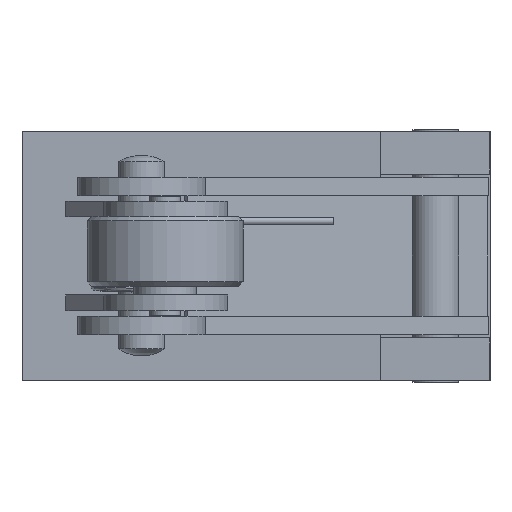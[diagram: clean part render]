
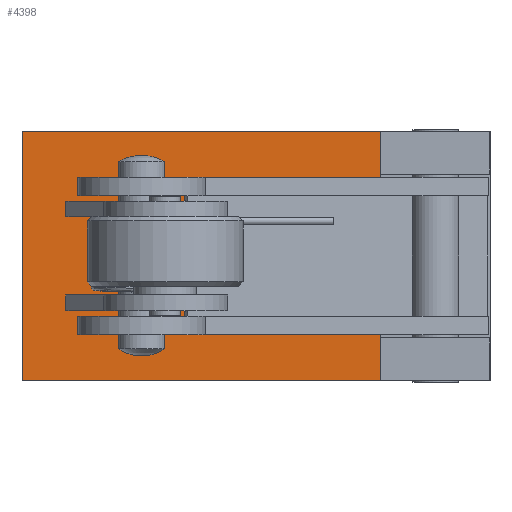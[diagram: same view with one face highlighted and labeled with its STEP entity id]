
A CAD part, left-side view. The second image highlights one B-rep face of the part: STEP entity #4398.
In plain terms, the highlighted planar face has unit normal (-1, 0, 0).
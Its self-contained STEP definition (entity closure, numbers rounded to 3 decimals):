
#203=LINE('',#7634,#539);
#249=LINE('',#8108,#585);
#260=LINE('',#8200,#596);
#261=LINE('',#8201,#597);
#539=VECTOR('',#6507,1000.);
#585=VECTOR('',#6579,1000.);
#596=VECTOR('',#6624,1000.);
#597=VECTOR('',#6625,1000.);
#868=PLANE('',#6106);
#1223=ORIENTED_EDGE('',*,*,#2418,.T.);
#1224=ORIENTED_EDGE('',*,*,#2419,.T.);
#1225=ORIENTED_EDGE('',*,*,#2395,.F.);
#1226=ORIENTED_EDGE('',*,*,#2420,.F.);
#1227=ORIENTED_EDGE('',*,*,#2296,.T.);
#2296=EDGE_CURVE('',#2899,#2898,#203,.T.);
#2395=EDGE_CURVE('',#2997,#2998,#249,.T.);
#2418=EDGE_CURVE('',#3020,#3020,#3347,.F.);
#2419=EDGE_CURVE('',#2898,#2998,#260,.T.);
#2420=EDGE_CURVE('',#2899,#2997,#261,.T.);
#2898=VERTEX_POINT('',#7633);
#2899=VERTEX_POINT('',#7635);
#2997=VERTEX_POINT('',#8107);
#2998=VERTEX_POINT('',#8109);
#3020=VERTEX_POINT('',#8199);
#3347=CIRCLE('',#6107,4.088);
#3517=EDGE_LOOP('',(#1223));
#3518=EDGE_LOOP('',(#1224,#1225,#1226,#1227));
#3959=FACE_BOUND('',#3517,.T.);
#3960=FACE_BOUND('',#3518,.T.);
#4398=ADVANCED_FACE('',(#3959,#3960),#868,.T.);
#6106=AXIS2_PLACEMENT_3D('',#8197,#6620,#6621);
#6107=AXIS2_PLACEMENT_3D('',#8198,#6622,#6623);
#6507=DIRECTION('',(0.,-1.,0.));
#6579=DIRECTION('',(0.,-1.,0.));
#6620=DIRECTION('',(-1.,0.,0.));
#6621=DIRECTION('',(0.,-1.,0.));
#6622=DIRECTION('',(-1.,0.,0.));
#6623=DIRECTION('',(0.,0.,1.));
#6624=DIRECTION('',(0.,0.,1.));
#6625=DIRECTION('',(0.,0.,1.));
#7633=CARTESIAN_POINT('',(-58.5,-8.,-8.));
#7634=CARTESIAN_POINT('',(-58.5,15.,-8.));
#7635=CARTESIAN_POINT('',(-58.5,15.,-8.));
#8107=CARTESIAN_POINT('',(-58.5,15.,8.));
#8108=CARTESIAN_POINT('',(-58.5,15.,8.));
#8109=CARTESIAN_POINT('',(-58.5,-8.,8.));
#8197=CARTESIAN_POINT('',(-58.5,15.,-8.));
#8198=CARTESIAN_POINT('',(-58.5,0.,0.));
#8199=CARTESIAN_POINT('',(-58.5,0.,4.088));
#8200=CARTESIAN_POINT('',(-58.5,-8.,-8.));
#8201=CARTESIAN_POINT('',(-58.5,15.,-8.));
